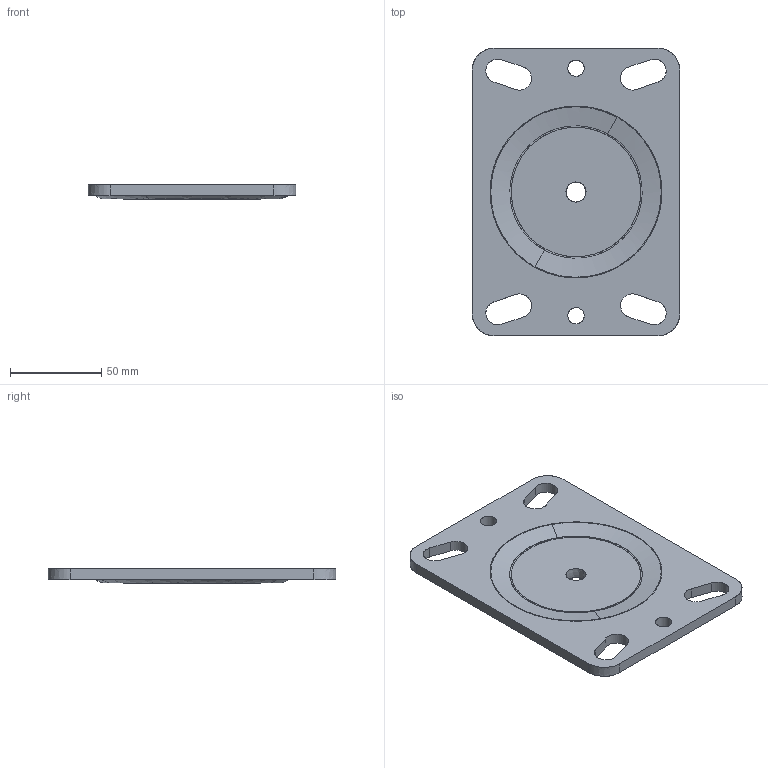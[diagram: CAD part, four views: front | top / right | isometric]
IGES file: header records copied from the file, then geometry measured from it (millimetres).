
Start section: JAMA-IS VERSION  1.0
Global section: file name: E:\tools-models\その他メーカー2\INOAC車輪\9月\KTU-200WJ-GS-11.igs; native system: CAM-TOOL; preprocessor: C3out Version 11.1.1.50212 (2015/02/12); author: NONE; organization: NONE; date: 190925.155548; units: millimetre
Bounding box: 114 x 158 x 8 mm (x, y, z)
Surface area: 39604.9 mm2 (no closed solid volume)
Topology: 0 solids, 0 shells, 49 faces, 2329 edges, 2343 vertices
Faces by surface type: bspline 49
